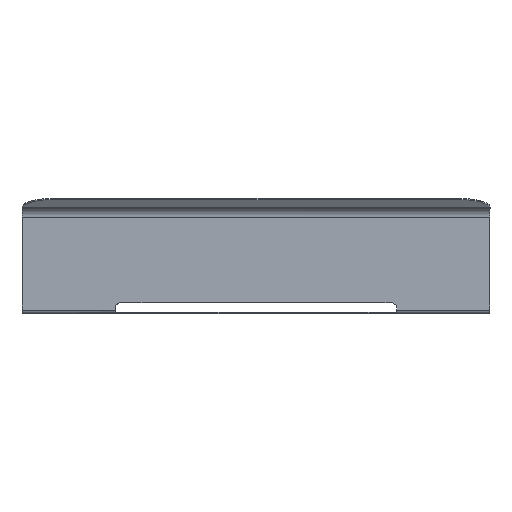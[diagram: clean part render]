
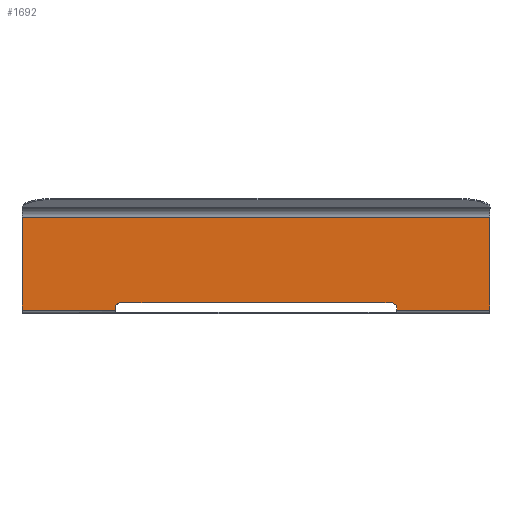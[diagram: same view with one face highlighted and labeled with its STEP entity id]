
A CAD part, top view. The second image highlights one B-rep face of the part: STEP entity #1692.
In plain terms, the highlighted planar face has unit normal (0, 0, 1).
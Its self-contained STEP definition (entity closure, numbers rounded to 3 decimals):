
#37 = DIRECTION ( 'NONE',  ( -1., 0., 0. ) ) ;
#44 = CARTESIAN_POINT ( 'NONE',  ( 97883.971, 50349.011, 1.2 ) ) ;
#125 = CARTESIAN_POINT ( 'NONE',  ( 97565.471, 50356.299, 1.2 ) ) ;
#133 = CARTESIAN_POINT ( 'NONE',  ( 97842.471, 50350.32, 1.2 ) ) ;
#193 = VERTEX_POINT ( 'NONE', #284 ) ;
#198 = CARTESIAN_POINT ( 'NONE',  ( 97883.971, 50440.38, 1.2 ) ) ;
#252 = DIRECTION ( 'NONE',  ( -1., 0., 0. ) ) ;
#276 = LINE ( 'NONE', #1793, #733 ) ;
#284 = CARTESIAN_POINT ( 'NONE',  ( 97933.971, 50440.38, 1.2 ) ) ;
#347 =( BOUNDED_CURVE ( )  B_SPLINE_CURVE ( 2, ( #1376, #955, #133, #1382, #693, #1102, #1238, #1647, #1367, #125, #1654, #533, #411 ),
 .UNSPECIFIED., .F., .T. ) 
 B_SPLINE_CURVE_WITH_KNOTS ( ( 3, 2, 2, 2, 2, 2, 3 ),
 ( -278.43, -277.122, -276.336, -275.551, -10.551, -8.98, -7.692 ),
 .UNSPECIFIED. ) 
 CURVE ( )  GEOMETRIC_REPRESENTATION_ITEM ( )  RATIONAL_B_SPLINE_CURVE ( ( 1., 1., 1., 0.924, 1., 0.924, 1., 1., 1., 0.707, 1., 1., 1. ) ) 
 REPRESENTATION_ITEM ( '' )  );
#411 = CARTESIAN_POINT ( 'NONE',  ( 97565.471, 50349.011, 1.2 ) ) ;
#427 = DIRECTION ( 'NONE',  ( 0., 0., 1. ) ) ;
#493 = VECTOR ( 'NONE', #37, 1000. ) ;
#533 = CARTESIAN_POINT ( 'NONE',  ( 97565.471, 50349.655, 1.2 ) ) ;
#598 = DIRECTION ( 'NONE',  ( -1., 0., 0. ) ) ;
#693 = CARTESIAN_POINT ( 'NONE',  ( 97840.714, 50354.562, 1.2 ) ) ;
#698 = EDGE_CURVE ( 'NONE', #1735, #893, #740, .T. ) ;
#701 = VERTEX_POINT ( 'NONE', #767 ) ;
#711 = EDGE_CURVE ( 'NONE', #1226, #1683, #891, .T. ) ;
#719 = EDGE_CURVE ( 'NONE', #193, #1735, #1435, .T. ) ;
#733 = VECTOR ( 'NONE', #1641, 1000. ) ;
#740 = LINE ( 'NONE', #1450, #1741 ) ;
#767 = CARTESIAN_POINT ( 'NONE',  ( 97565.471, 50349.011, 1.2 ) ) ;
#811 = LINE ( 'NONE', #1495, #1598 ) ;
#818 = FACE_OUTER_BOUND ( 'NONE', #1328, .T. ) ;
#867 = ORIENTED_EDGE ( 'NONE', *, *, #698, .T. ) ;
#880 = ORIENTED_EDGE ( 'NONE', *, *, #1104, .T. ) ;
#891 = LINE ( 'NONE', #44, #493 ) ;
#893 = VERTEX_POINT ( 'NONE', #1661 ) ;
#911 = CARTESIAN_POINT ( 'NONE',  ( 97933.971, 50349.011, 1.2 ) ) ;
#919 = ORIENTED_EDGE ( 'NONE', *, *, #719, .T. ) ;
#955 = CARTESIAN_POINT ( 'NONE',  ( 97842.471, 50349.665, 1.2 ) ) ;
#996 = CARTESIAN_POINT ( 'NONE',  ( 97883.971, 50251.32, 1.2 ) ) ;
#1029 = DIRECTION ( 'NONE',  ( 0., -1., 0. ) ) ;
#1083 = ORIENTED_EDGE ( 'NONE', *, *, #711, .F. ) ;
#1084 = ORIENTED_EDGE ( 'NONE', *, *, #1163, .F. ) ;
#1101 = CARTESIAN_POINT ( 'NONE',  ( 97473.971, 50440.38, 1.2 ) ) ;
#1102 = CARTESIAN_POINT ( 'NONE',  ( 97838.956, 50356.32, 1.2 ) ) ;
#1104 = EDGE_CURVE ( 'NONE', #1226, #193, #276, .T. ) ;
#1113 = CARTESIAN_POINT ( 'NONE',  ( 97842.471, 50349.011, 1.2 ) ) ;
#1163 = EDGE_CURVE ( 'NONE', #1683, #701, #347, .T. ) ;
#1226 = VERTEX_POINT ( 'NONE', #911 ) ;
#1238 = CARTESIAN_POINT ( 'NONE',  ( 97836.471, 50356.32, 1.2 ) ) ;
#1297 = EDGE_CURVE ( 'NONE', #701, #893, #811, .T. ) ;
#1328 = EDGE_LOOP ( 'NONE', ( #880, #919, #867, #1719, #1084, #1083 ) ) ;
#1366 = DIRECTION ( 'NONE',  ( 1., 0., 0. ) ) ;
#1367 = CARTESIAN_POINT ( 'NONE',  ( 97571.471, 50356.3, 1.2 ) ) ;
#1376 = CARTESIAN_POINT ( 'NONE',  ( 97842.471, 50349.011, 1.2 ) ) ;
#1382 = CARTESIAN_POINT ( 'NONE',  ( 97842.471, 50352.805, 1.2 ) ) ;
#1435 = LINE ( 'NONE', #198, #1511 ) ;
#1450 = CARTESIAN_POINT ( 'NONE',  ( 97473.971, 50451.269, 1.2 ) ) ;
#1495 = CARTESIAN_POINT ( 'NONE',  ( 97883.971, 50349.011, 1.2 ) ) ;
#1508 = PLANE ( 'NONE',  #1593 ) ;
#1511 = VECTOR ( 'NONE', #598, 1000. ) ;
#1593 = AXIS2_PLACEMENT_3D ( 'NONE', #996, #427, #1366 ) ;
#1598 = VECTOR ( 'NONE', #252, 1000. ) ;
#1641 = DIRECTION ( 'NONE',  ( 0., 1., 0. ) ) ;
#1647 = CARTESIAN_POINT ( 'NONE',  ( 97703.971, 50356.31, 1.2 ) ) ;
#1654 = CARTESIAN_POINT ( 'NONE',  ( 97565.471, 50350.3, 1.2 ) ) ;
#1661 = CARTESIAN_POINT ( 'NONE',  ( 97473.971, 50349.011, 1.2 ) ) ;
#1683 = VERTEX_POINT ( 'NONE', #1113 ) ;
#1692 = ADVANCED_FACE ( 'NONE', ( #818 ), #1508, .T. ) ;
#1719 = ORIENTED_EDGE ( 'NONE', *, *, #1297, .F. ) ;
#1735 = VERTEX_POINT ( 'NONE', #1101 ) ;
#1741 = VECTOR ( 'NONE', #1029, 1000. ) ;
#1793 = CARTESIAN_POINT ( 'NONE',  ( 97933.971, 50251.32, 1.2 ) ) ;
